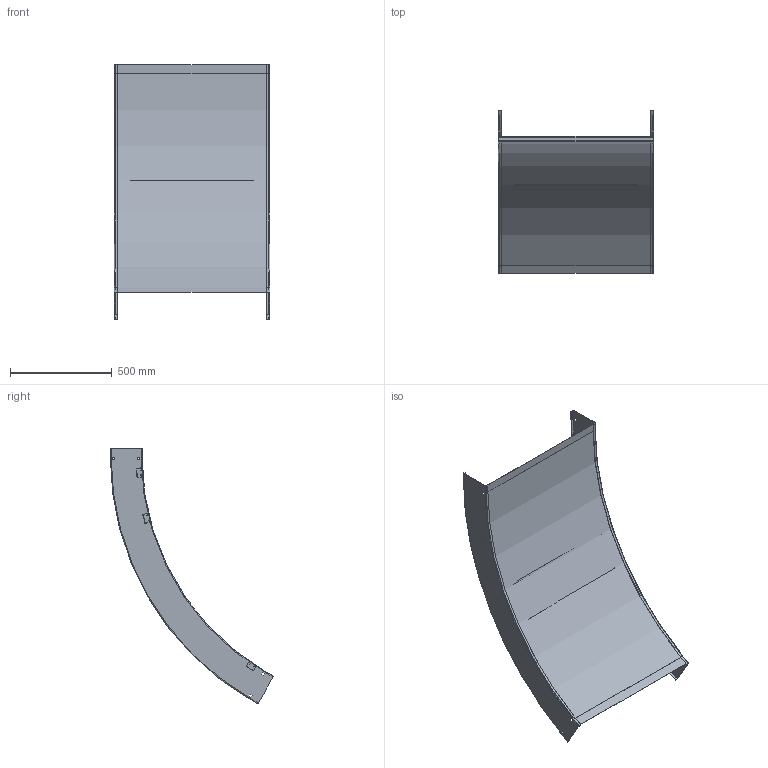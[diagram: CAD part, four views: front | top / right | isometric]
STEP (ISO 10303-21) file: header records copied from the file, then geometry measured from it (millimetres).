
FILE_DESCRIPTION((''),'2;1');
FILE_NAME('AUF630SVO6048_ASM','2010-02-02T',('erouzier'),(''),'PRO/ENGINEER BY PARAMETRIC TECHNOLOGY CORPORATION, 2008510','PRO/ENGINEER BY PARAMETRIC TECHNOLOGY CORPORATION, 2008510','');
FILE_SCHEMA(('CONFIG_CONTROL_DESIGN'));
Length unit declared in the file: inch
Products named in the file (5): CDS001418_6_60_48; CDS002159L30; CDS002159L24-P; CDS003665_60_48_30; AUF630SVO6048_ASM
Assembly tree (9 placements, depth 2):
  AUF630SVO6048_ASM
    CDS001418_6_60_48  x2
    CDS002159L30  x3
    CDS002159L24-P  x3
    CDS003665_60_48_30
Bounding box: 766.11 x 804.61 x 1258.08 mm (x, y, z)
Volume: 2683557.4 mm3; surface area: 4078702.6 mm2
Topology: 9 solids, 9 shells, 838 faces, 2388 edges, 1568 vertices
Faces by surface type: plane 474, cylinder 356, torus 8
Entity records: 10159 total; most frequent: DIRECTION 1756, CARTESIAN_POINT 1742, ORIENTED_EDGE 1720, EDGE_CURVE 860, VECTOR 608, LINE 608, AXIS2_PLACEMENT_3D 574, VERTEX_POINT 560
